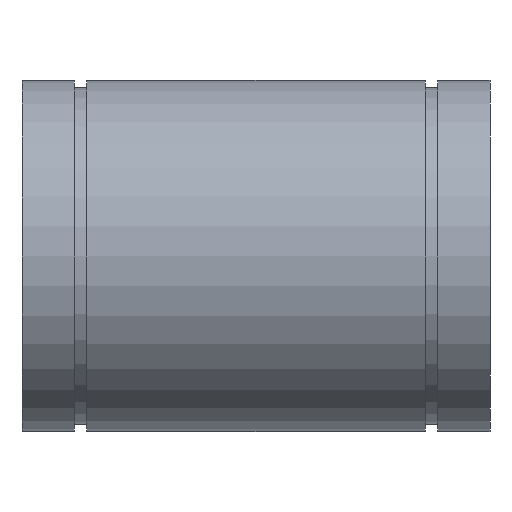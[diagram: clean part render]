
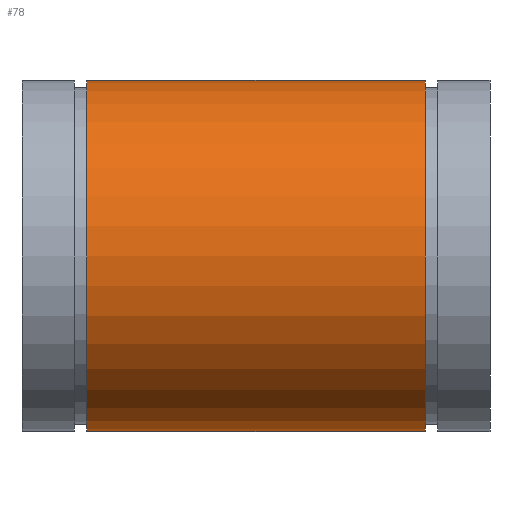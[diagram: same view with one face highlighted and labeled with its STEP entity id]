
A CAD part, front view. The second image highlights one B-rep face of the part: STEP entity #78.
In plain terms, the highlighted cylindrical face has radius 37.5 mm (diameter 75 mm), a full revolution.
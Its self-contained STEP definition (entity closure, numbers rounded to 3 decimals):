
#78 = ADVANCED_FACE( '', ( #97, #98 ), #99, .T. );
#97 = FACE_OUTER_BOUND( '', #133, .T. );
#98 = FACE_OUTER_BOUND( '', #134, .T. );
#99 = CYLINDRICAL_SURFACE( '', #135, 37.5 );
#133 = EDGE_LOOP( '', ( #175 ) );
#134 = EDGE_LOOP( '', ( #176 ) );
#135 = AXIS2_PLACEMENT_3D( '', #177, #178, #179 );
#175 = ORIENTED_EDGE( '', *, *, #224, .T. );
#176 = ORIENTED_EDGE( '', *, *, #223, .F. );
#177 = CARTESIAN_POINT( '', ( 100., 0., 0. ) );
#178 = DIRECTION( '', ( -1., 0., 0. ) );
#179 = DIRECTION( '', ( 0., 0., -1. ) );
#223 = EDGE_CURVE( '', #238, #238, #239, .T. );
#224 = EDGE_CURVE( '', #240, #240, #241, .T. );
#238 = VERTEX_POINT( '', #262 );
#239 = CIRCLE( '', #263, 37.5 );
#240 = VERTEX_POINT( '', #264 );
#241 = CIRCLE( '', #265, 37.5 );
#262 = CARTESIAN_POINT( '', ( 86.15, 0., -37.5 ) );
#263 = AXIS2_PLACEMENT_3D( '', #289, #290, #291 );
#264 = CARTESIAN_POINT( '', ( 13.85, 0., -37.5 ) );
#265 = AXIS2_PLACEMENT_3D( '', #292, #293, #294 );
#289 = CARTESIAN_POINT( '', ( 86.15, 0., 0. ) );
#290 = DIRECTION( '', ( 1., 0., 0. ) );
#291 = DIRECTION( '', ( 0., 0., -1. ) );
#292 = CARTESIAN_POINT( '', ( 13.85, 0., 0. ) );
#293 = DIRECTION( '', ( 1., 0., 0. ) );
#294 = DIRECTION( '', ( 0., 0., -1. ) );
